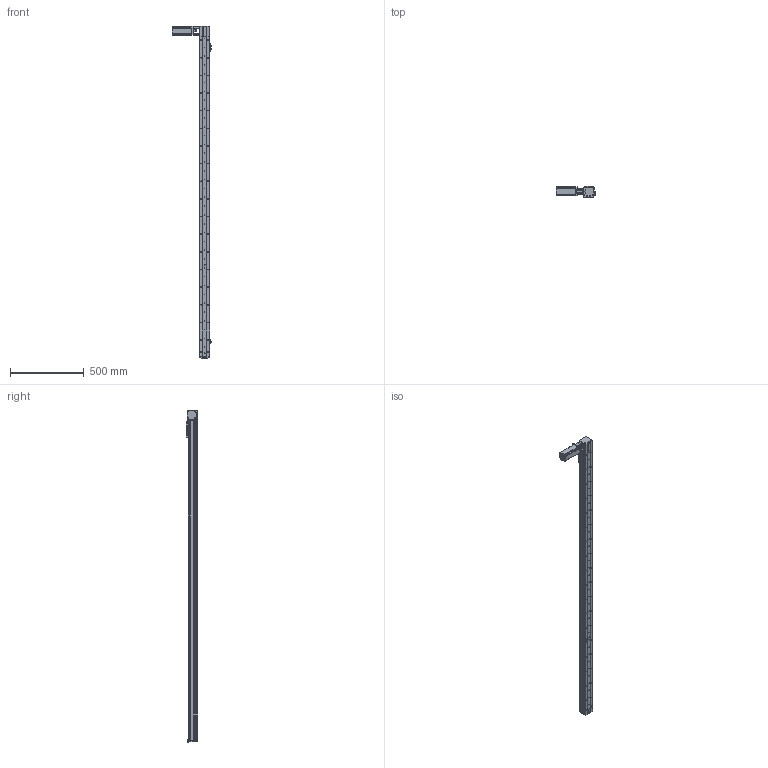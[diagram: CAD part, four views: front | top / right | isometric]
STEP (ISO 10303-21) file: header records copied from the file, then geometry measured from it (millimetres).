
FILE_DESCRIPTION (( 'STEP AP214' ), '1' );
FILE_NAME ('KSD68BS-S2000-MLT-CR.STEP', '2019-08-28T05:42:10', ( '微软用户' ), ( '微软中国' ), 'SwSTEP 2.0', 'SolidWorks 2014', '' );
FILE_SCHEMA (( 'AUTOMOTIVE_DESIGN' ));
Length unit declared in the file: millimetre
Products named in the file (13): 100遵鎮湛假蚾啣1; KSD68BS 2000行程盖板全封闭; 68遵裔啣揤啣1; 68宽单导轨全封闭丝杆传动安装板1防护罩; KSD68BS 2000行程侧板全封闭; 68宽单导轨全封闭同步带端板; 68单导轨全封闭同步带电机座右; 68单导轨全封闭同步带安装板; 感应片68宽全封闭; U倰嫖萇EEㄜSX672; 台达ECMA－C20604AS伺服电机（400W); KSD68BS 2000行程底板全封闭; KSD68BS-S2000-MLT-CR
Assembly tree (16 placements, depth 2):
  KSD68BS-S2000-MLT-CR
    KSD68BS 2000行程底板全封闭
    台达ECMA－C20604AS伺服电机（400W)
    U倰嫖萇EEㄜSX672  x3
    感应片68宽全封闭
    68单导轨全封闭同步带安装板
    68单导轨全封闭同步带电机座右
    68宽单导轨全封闭同步带端板
    KSD68BS 2000行程侧板全封闭  x2
    68宽单导轨全封闭丝杆传动安装板1防护罩
    68遵裔啣揤啣1  x2
    KSD68BS 2000行程盖板全封闭
    100遵鎮湛假蚾啣1
Bounding box: 266.4 x 77 x 2258.1 mm (x, y, z)
Volume: 3833322 mm3; surface area: 1569188.4 mm2
Topology: 17 solids, 17 shells, 1610 faces, 4682 edges, 2971 vertices
Faces by surface type: cylinder 802, plane 604, cone 204
Entity records: 53501 total; most frequent: CARTESIAN_POINT 9335, DIRECTION 7874, ORIENTED_EDGE 7536, EDGE_CURVE 3768, AXIS2_PLACEMENT_3D 2892, VERTEX_POINT 2469, LINE 2090, VECTOR 2090
